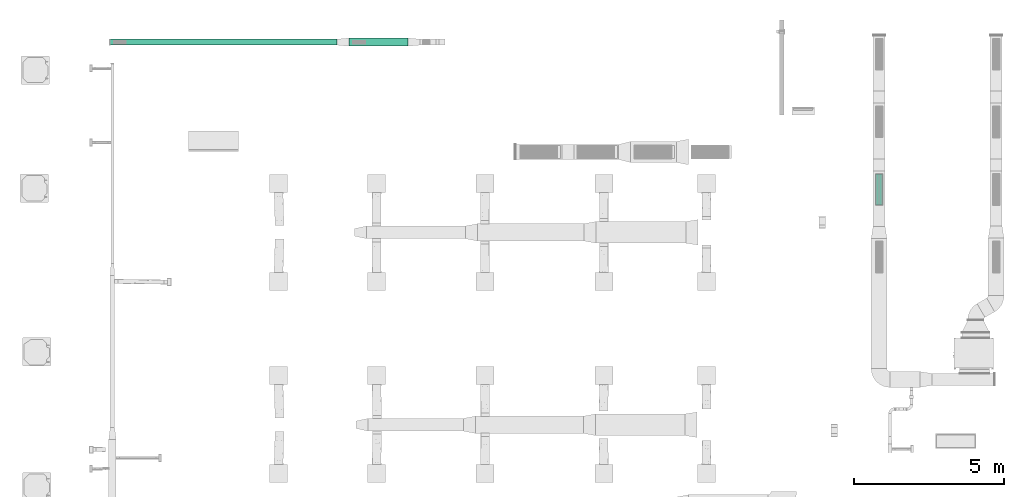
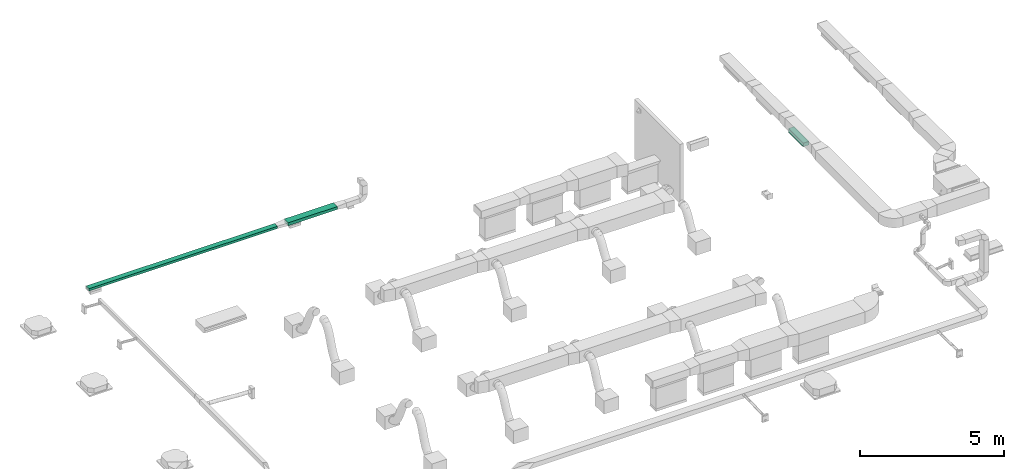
# One storey, part 14 of 60: 3 flow segments, 1 flow fitting.
"""IFC2X3 building model written with IfcOpenShell, lengths in millimetres."""

import ifcopenshell
import ifcopenshell.guid

model = None  # the IFC model being written
_history = None  # IfcOwnerHistory: only IFC2X3 demands one
_inside = {}  # id of a spatial element -> (the spatial element, [elements in it])
_under = {}  # id of a project, library or spatial element -> (it, [spatial elements below it])
_declared = {}  # id of a project -> (the project, [libraries it declares])
_typed = {}  # id of a type object -> (the type object, [elements of that type])
_made_of = {}  # id of a material, layer set ... -> (it, [elements and type objects made of it])


def new_model(schema):
    """Start an empty IFC model of exactly this schema.

    Asked for "IFC4X3", IfcOpenShell would pick the latest addendum, in which some entities
    have other attributes; the version numbers below select the first issue.
    IFC2X3 requires an IfcOwnerHistory on every rooted entity: one is made here for all.
    """
    global model, _history
    if schema == "IFC4X3":
        model = ifcopenshell.file(schema_version=(4, 3, 0, 0))
    else:
        model = ifcopenshell.file(schema=schema)
    _inside.clear()
    _under.clear()
    _declared.clear()
    _typed.clear()
    _made_of.clear()
    _history = None
    if model.schema == "IFC2X3":
        org = make("IfcOrganization", Name="unknown")
        user = make(
            "IfcPersonAndOrganization",
            ThePerson=make("IfcPerson", FamilyName="unknown"),
            TheOrganization=org,
        )
        app = make(
            "IfcApplication",
            ApplicationDeveloper=org,
            Version="unknown",
            ApplicationFullName="unknown",
            ApplicationIdentifier="unknown",
        )
        _history = make(
            "IfcOwnerHistory",
            OwningUser=user,
            OwningApplication=app,
            ChangeAction="ADDED",
            CreationDate=0,
        )
    return model


def make(cls, **values):
    """One entity of the class cls with the attributes given. An attribute that is None is left unset."""
    return model.create_entity(
        cls, **{name: value for name, value in values.items() if value is not None}
    )


def entity(cls, *values):
    """Any entity or typed value of the class cls, its attributes in the order of the schema. None: left unset."""
    e = model.create_entity(cls)
    for i, value in enumerate(values):
        if value is not None:
            e[i] = value
    return e


def rooted(cls, **values):
    """An entity with a GlobalId (a new one), such as an element, a storey or a relation."""
    return make(cls, GlobalId=ifcopenshell.guid.new(), OwnerHistory=_history, **values)


def si_unit(unit_type, name, prefix=None):
    """IfcSIUnit, for example si_unit("LENGTHUNIT", "METRE", prefix="MILLI")."""
    return make("IfcSIUnit", UnitType=unit_type, Prefix=prefix, Name=name)


def converted_unit(unit_type, name, factor, base, dimensions=None, offset=None):
    """IfcConversionBasedUnit, such as the inch: factor (a typed value) times the base unit."""
    return make(
        "IfcConversionBasedUnit"
        if offset is None
        else "IfcConversionBasedUnitWithOffset",
        ConversionOffset=offset,
        Dimensions=None
        if dimensions is None
        else entity("IfcDimensionalExponents", *dimensions),
        UnitType=unit_type,
        Name=name,
        ConversionFactor=make(
            "IfcMeasureWithUnit", ValueComponent=factor, UnitComponent=base
        ),
    )


def derived_unit(unit_type, elements):
    """IfcDerivedUnit: a product of units, each with its exponent."""
    return make(
        "IfcDerivedUnit",
        Elements=[
            make("IfcDerivedUnitElement", Unit=unit, Exponent=power)
            for unit, power in elements
        ],
        UnitType=unit_type,
    )


def assignment(units):
    """IfcUnitAssignment: the units of a project."""
    return None if units is None else make("IfcUnitAssignment", Units=units)


def point(xyz):
    """IfcCartesianPoint."""
    return None if xyz is None else make("IfcCartesianPoint", Coordinates=xyz)


def direction(xyz):
    """IfcDirection."""
    return None if xyz is None else make("IfcDirection", DirectionRatios=xyz)


def frame(location, z_axis=None, x_axis=None):
    """IfcAxis2Placement3D, a coordinate frame: its origin and axes. An axis left out is left unset."""
    return make(
        "IfcAxis2Placement3D",
        Location=point(location),
        Axis=direction(z_axis),
        RefDirection=direction(x_axis),
    )


def frame_2d(location, x_axis=None):
    """IfcAxis2Placement2D, a coordinate frame in the plane: its origin and x axis."""
    return make(
        "IfcAxis2Placement2D", Location=point(location), RefDirection=direction(x_axis)
    )


def origin():
    """The frame at (0, 0, 0) with its axes left unset."""
    return frame((0.0, 0.0, 0.0))


def origin_2d_with_axis():
    """The frame at (0, 0) in the plane with the x axis (1, 0) written out."""
    return frame_2d((0.0, 0.0), x_axis=(1.0, 0.0))


def place(relative_to, where):
    """IfcLocalPlacement: puts the frame where relative to a parent placement (None: the world)."""
    return make(
        "IfcLocalPlacement", PlacementRelTo=relative_to, RelativePlacement=where
    )


def context(
    kind, dimensions, precision=None, world=None, true_north=None, identifier=None
):
    """IfcGeometricRepresentationContext, for example the 3D "Model" context."""
    return make(
        "IfcGeometricRepresentationContext",
        ContextIdentifier=identifier,
        ContextType=kind,
        CoordinateSpaceDimension=dimensions,
        Precision=precision,
        WorldCoordinateSystem=world,
        TrueNorth=true_north,
    )


def subcontext(parent, identifier, kind, view, scale=None):
    """IfcGeometricRepresentationSubContext, for example "Body" below "Model"."""
    return make(
        "IfcGeometricRepresentationSubContext",
        ContextIdentifier=identifier,
        ContextType=kind,
        ParentContext=parent,
        TargetScale=scale,
        TargetView=view,
    )


def project(units=None, contexts=None):
    """IfcProject with its units and contexts."""
    return rooted(
        "IfcProject",
        Name="project",
        RepresentationContexts=contexts,
        UnitsInContext=assignment(units),
    )


def spatial(cls, under=None, at=None, **own):
    """A site, building, storey or space (cls), placed at a placement, below another one or the project."""
    s = rooted(cls, ObjectPlacement=at, **own)
    if under is not None:
        _under.setdefault(under.id(), (under, []))[1].append(s)
    return s


def polyline(points):
    """IfcPolyline through the points."""
    return make("IfcPolyline", Points=[point(p) for p in points])


def profile(cls, at=None, kind="AREA", **sizes):
    """A parametric profile (cls). Its sizes go by their IFC names, for example OverallWidth=200.0."""
    return make(cls, ProfileType=kind, Position=at, **sizes)


def rectangle(**sizes):
    """IfcRectangleProfileDef."""
    return profile("IfcRectangleProfileDef", **sizes)


def outline(outer, holes=None, kind="AREA"):
    """IfcArbitraryClosedProfileDef: a profile drawn as a closed curve; with holes, ...WithVoids."""
    if holes is None:
        return make("IfcArbitraryClosedProfileDef", ProfileType=kind, OuterCurve=outer)
    return make(
        "IfcArbitraryProfileDefWithVoids",
        ProfileType=kind,
        OuterCurve=outer,
        InnerCurves=holes,
    )


def extrude(swept, where, along, depth):
    """IfcExtrudedAreaSolid: the profile swept, set in the frame where, extruded along a direction by depth."""
    return make(
        "IfcExtrudedAreaSolid",
        SweptArea=swept,
        Position=where,
        ExtrudedDirection=direction(along),
        Depth=depth,
    )


def shape(context_of_items, identifier, shape_type, items):
    """IfcShapeRepresentation: the items that make up one representation, for example the "Body"."""
    return make(
        "IfcShapeRepresentation",
        ContextOfItems=context_of_items,
        RepresentationIdentifier=identifier,
        RepresentationType=shape_type,
        Items=items,
    )


def source(mapping_origin, context_of_items, identifier, shape_type, items):
    """IfcRepresentationMap: a shape defined once, which mapped items show again and again."""
    return make(
        "IfcRepresentationMap",
        MappingOrigin=mapping_origin,
        MappedRepresentation=shape(context_of_items, identifier, shape_type, items),
    )


def transform(
    local_origin,
    x_axis=None,
    y_axis=None,
    z_axis=None,
    scale=None,
    scale2=None,
    scale3=None,
    uniform=True,
):
    """IfcCartesianTransformationOperator3D, or its non-uniform kind. x_axis, y_axis, z_axis: its Axis1, 2, 3."""
    if uniform:
        return make(
            "IfcCartesianTransformationOperator3D",
            Axis1=direction(x_axis),
            Axis2=direction(y_axis),
            LocalOrigin=point(local_origin),
            Scale=scale,
            Axis3=direction(z_axis),
        )
    return make(
        "IfcCartesianTransformationOperator3DnonUniform",
        Axis1=direction(x_axis),
        Axis2=direction(y_axis),
        LocalOrigin=point(local_origin),
        Scale=scale,
        Axis3=direction(z_axis),
        Scale2=scale2,
        Scale3=scale3,
    )


def mapped(mapping_source, mapping_target):
    """IfcMappedItem: shows the shape of a source again, moved by a transform."""
    return make(
        "IfcMappedItem", MappingSource=mapping_source, MappingTarget=mapping_target
    )


def material(Name=None, Category=None):
    """IfcMaterial."""
    return make("IfcMaterial", Name=Name, Category=Category)


def made_of(thing, what):
    """Note that an element or type object is made of a material, layer set ...; save() writes the relation."""
    if what is not None:
        _made_of.setdefault(what.id(), (what, []))[1].append(thing)
    return thing


def type_object(cls, material=None, **own):
    """A type object (cls), such as IfcWallType, which elements share."""
    return made_of(rooted(cls, **own), material)


def type_shapes(of_type, sources):
    """Give a type object the sources (RepresentationMaps) that its elements show as mapped items."""
    of_type.RepresentationMaps = sources


def element(
    cls,
    number,
    at=None,
    inside=None,
    cuts=None,
    type_object=None,
    material=None,
    context=None,
    identifier="Body",
    shape_type=None,
    held_by="IfcProductDefinitionShape",
    body=None,
    shapes=None,
    **own,
):
    """One element of the class cls, such as IfcWall. Its Tag is "e" and its number.

    at: its placement. inside: the storey or other place that contains it. cuts: it is an
    opening in that element (IfcRelVoidsElement). A single representation is given by context,
    identifier, shape_type and body (its items); several are given by shapes. held_by: the class
    of the entity that holds the representations. save() writes the other relations.
    """
    e = rooted(cls, Tag="e%d" % number, ObjectPlacement=at, **own)
    if body is not None:
        shapes = [shape(context, identifier, shape_type, body)]
    if shapes is not None:
        e.Representation = make(held_by, Representations=shapes)
    if inside is not None:
        _inside.setdefault(inside.id(), (inside, []))[1].append(e)
    if cuts is not None:
        rooted(
            "IfcRelVoidsElement", RelatingBuildingElement=cuts, RelatedOpeningElement=e
        )
    if type_object is not None:
        _typed.setdefault(type_object.id(), (type_object, []))[1].append(e)
    return made_of(e, material)


def aggregate(whole, parts):
    """IfcRelAggregates: a whole, such as a stair, and the parts it consists of."""
    return rooted("IfcRelAggregates", RelatingObject=whole, RelatedObjects=parts)


def save(model, path):
    """Write the relations noted so far, then the file.

    IfcRelAggregates (storeys below a building ...), IfcRelContainedInSpatialStructure (elements
    in a storey), IfcRelDefinesByType, IfcRelAssociatesMaterial and IfcRelDeclares: one each for
    every whole, place, type object, material and project.
    """
    for whole, parts in _under.values():
        aggregate(whole, parts)
    for where, things in _inside.values():
        rooted(
            "IfcRelContainedInSpatialStructure",
            RelatedElements=things,
            RelatingStructure=where,
        )
    for kind, things in _typed.values():
        rooted("IfcRelDefinesByType", RelatedObjects=things, RelatingType=kind)
    for what, things in _made_of.values():
        rooted("IfcRelAssociatesMaterial", RelatedObjects=things, RelatingMaterial=what)
    for by, libraries in _declared.values():
        rooted("IfcRelDeclares", RelatingContext=by, RelatedDefinitions=libraries)
    model.write(path)


model = new_model("IFC2X3")

# Units and contexts
model_context = context("Model", 3, precision=0.01, world=origin(), true_north=direction((6.123233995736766e-17, 1.0)))
body_context = subcontext(model_context, "Body", "Model", "MODEL_VIEW")
ifc_project = project(units=[si_unit("LENGTHUNIT", "METRE", prefix="MILLI"), converted_unit("PLANEANGLEUNIT", "DEGREE", entity("IfcPlaneAngleMeasure", 0.017453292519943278), si_unit("PLANEANGLEUNIT", "RADIAN"), dimensions=[0, 0, 0, 0, 0, 0, 0]), si_unit("AREAUNIT", "SQUARE_METRE"), derived_unit("THERMALTRANSMITTANCEUNIT", [(si_unit("MASSUNIT", "GRAM", prefix="KILO"), 1), (si_unit("THERMODYNAMICTEMPERATUREUNIT", "KELVIN"), -1), (si_unit("TIMEUNIT", "SECOND"), -3)])], contexts=[model_context])

# Site, building, storey
site_placement = place(None, origin())
site = spatial("IfcSite", under=ifc_project, at=site_placement, Name="Default", CompositionType="ELEMENT")
building_placement = place(site_placement, origin())
building = spatial("IfcBuilding", under=site, at=building_placement, Name="Praça Pedro II, 1301 - Centro (Sul), Teresina - PI, 64001-100", CompositionType="ELEMENT")
storey_placement = place(building_placement, frame((0.0, 0.0, 6040.0)))
storey = spatial("IfcBuildingStorey", under=building, at=storey_placement, Name="2PAV", CompositionType="ELEMENT", Elevation=6040.0)

# Flow segments
duct_segment_type = type_object("IfcDuctSegmentType", Name="Duto retangular:Raios cotovelos / torneiras", PredefinedType="NOTDEFINED")
flow_segment_1_placement = place(storey_placement, origin())
element("IfcFlowSegment", 1, at=flow_segment_1_placement, inside=storey, type_object=duct_segment_type, Name="Duto retangular:Raios cotovelos / torneiras", ObjectType="Duto retangular:Raios cotovelos / torneiras", context=body_context, shape_type="SweptSolid", body=[
    extrude(rectangle(XDim=7553.340353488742, YDim=199.99999999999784, at=origin_2d_with_axis()), frame((13845.211249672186, -51911.561083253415, 2697.5000000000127)), (0.0, 0.0, 1.0), 99.99999999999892),
])
flow_segment_2_placement = place(storey_placement, origin())
element("IfcFlowSegment", 2, at=flow_segment_2_placement, inside=storey, type_object=duct_segment_type, Name="Duto retangular:Raios cotovelos / torneiras", ObjectType="Duto retangular:Raios cotovelos / torneiras", context=body_context, shape_type="SweptSolid", body=[
    extrude(rectangle(XDim=1961.1311786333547, YDim=274.9999999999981, at=frame_2d((1.0800249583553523e-12, 0.0), x_axis=(1.0, 0.0))), frame((19002.447015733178, -51911.5610832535, 2697.5000000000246)), (0.0, 0.0, 1.0), 124.99999999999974),
])
flow_segment_3_placement = place(storey_placement, origin())
element("IfcFlowSegment", 3, at=flow_segment_3_placement, inside=storey, type_object=duct_segment_type, Name="Duto retangular:Raios cotovelos / torneiras", ObjectType="Duto retangular:Raios cotovelos / torneiras", context=body_context, shape_type="SweptSolid", body=[
    extrude(rectangle(XDim=225.00000000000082, YDim=1024.9999999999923, at=frame_2d((0.0, -8.640199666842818e-12), x_axis=(1.0, 0.0))), frame((35678.62107154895, -56820.52511125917, 3100.0)), (0.0, 0.0, 1.0), 148.9999999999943),
])

# Flow fitting
ifc_material = material(Name="<Unnamed>")
duct_fitting_type = type_object("IfcDuctFittingType", Name="M_Rectangular Tap - Beveled:Standard", PredefinedType="NOTDEFINED", material=ifc_material)
shared_shape = source(origin(), body_context, "Body", "SweptSolid", [
    extrude(outline(polyline([(-3.0383999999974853, -615.4000000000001), (4.057600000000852, -615.4000000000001), (4.057600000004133, 410.6000000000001), (-2.0383999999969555, 410.6000000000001), (-3.0383999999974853, 409.59999999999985), (-3.0383999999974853, -615.4000000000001)])), frame((-2.038399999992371, -102.90000000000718, -112.49999999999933), z_axis=(0.0, 0.0, 1.0), x_axis=(-1.0, 0.0, 0.0)), (0.0, 0.0, 1.0), 224.99999999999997),
])
type_shapes(duct_fitting_type, [shared_shape])
flow_fitting_placement = place(storey_placement, frame((35678.62107154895, -56820.525111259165, 3250.0), z_axis=(1.0, 0.0, 0.0), x_axis=(0.0, 0.0, -1.0)))
element("IfcFlowFitting", 4, at=flow_fitting_placement, inside=storey, type_object=duct_fitting_type, material=ifc_material, Name="M_Rectangular Tap - Beveled:Standard", ObjectType="M_Rectangular Tap - Beveled:Standard", context=body_context, shape_type="MappedRepresentation", body=[
    mapped(shared_shape, transform((0.0, 0.0, 0.0), scale=1.0)),
])

save(model, "model.ifc")
